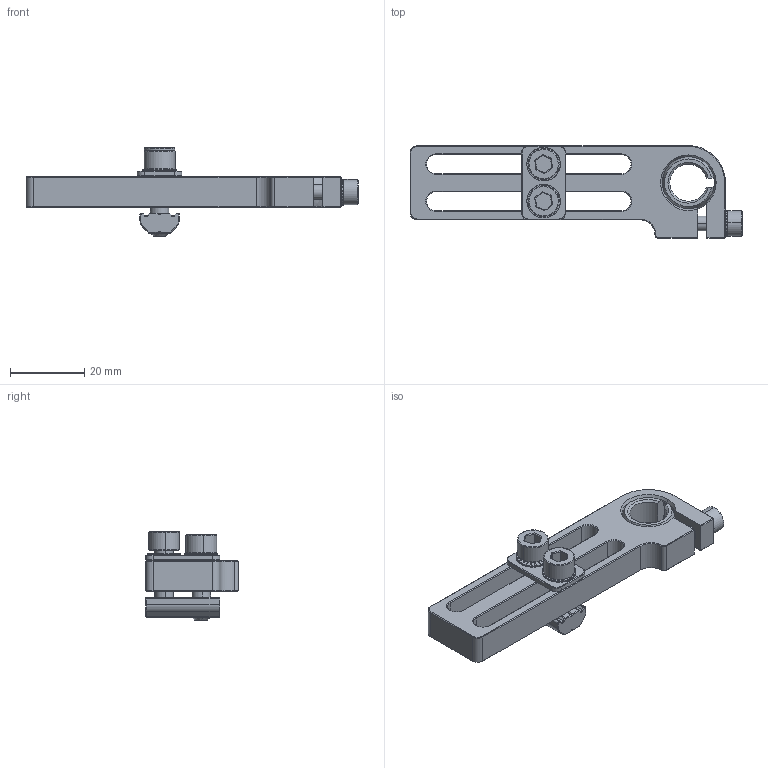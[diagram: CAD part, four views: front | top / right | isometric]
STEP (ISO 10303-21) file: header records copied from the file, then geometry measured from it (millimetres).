
FILE_DESCRIPTION (( 'STEP AP214' ), '1' );
FILE_NAME ('SMBE8-1050T.STEP', '2023-03-03T08:16:26', ( 'Windows User' ), ( 'P R C' ), 'SwSTEP 2.0', 'SolidWorks 2019', '' );
FILE_SCHEMA (( 'AUTOMOTIVE_DESIGN' ));
Length unit declared in the file: millimetre
Products named in the file (9): PTC-M5L18; SMBE8-1050T; SMBE8-1050⑩壽誹; PTS-M5; PTC-M4L14; PTD-M5P10; PTS-M4; PTN-M5P10; SMBE8-1050球关节重型固定支架
Assembly tree (10 placements, depth 2):
  SMBE8-1050T
    SMBE8-1050球关节重型固定支架
    SMBE8-1050⑩壽誹
    PTD-M5P10
    PTS-M5  x2
    PTC-M5L18  x2
    PTN-M5P10
    PTS-M4
    PTC-M4L14
Bounding box: 89.45 x 25 x 23.85 mm (x, y, z)
Volume: 11589.4 mm3; surface area: 9997.2 mm2
Topology: 10 solids, 10 shells, 900 faces, 2461 edges, 1572 vertices
Faces by surface type: plane 679, cone 101, cylinder 73, bspline 24, torus 18, sphere 5
Entity records: 23407 total; most frequent: CARTESIAN_POINT 4986, ORIENTED_EDGE 3802, DIRECTION 3783, EDGE_CURVE 1901, AXIS2_PLACEMENT_3D 1307, VERTEX_POINT 1204, VECTOR 1169, LINE 1169
